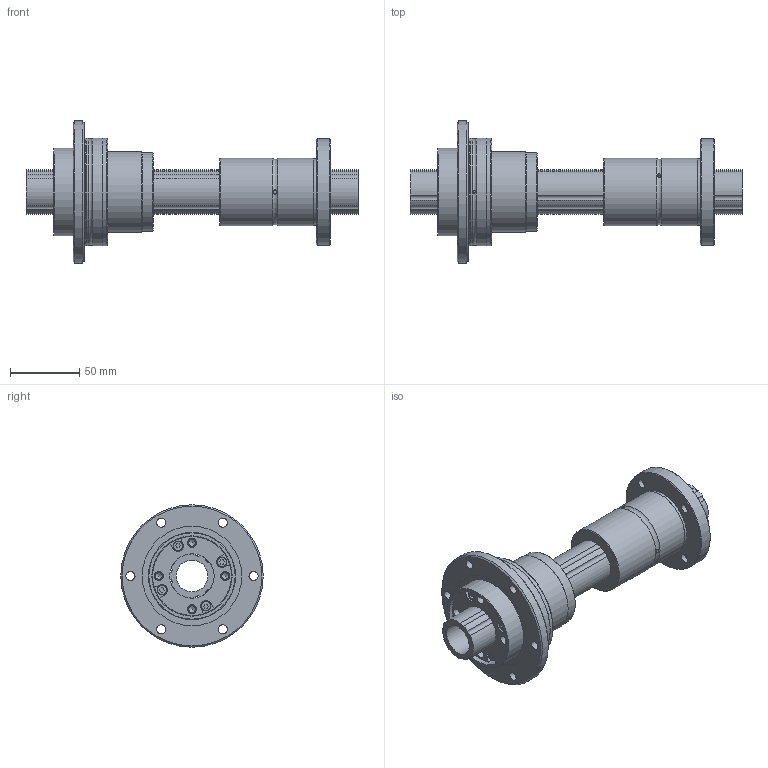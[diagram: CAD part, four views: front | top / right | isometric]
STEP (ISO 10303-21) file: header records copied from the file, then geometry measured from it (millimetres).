
FILE_DESCRIPTION(/* description */ ('STEP AP203'),/* implementation_level */ '2;1');
FILE_NAME(/* name */ 'NS3232A+240L',/* time_stamp */ '2025-06-11T08:45:45+02:00',/* author */ ('License CC BY-ND 4.0'),/* organization */ ('CADENAS'),/* preprocessor_version */ 'ST-DEVELOPER v19.3',/* originating_system */ 'PARTsolutions',/* authorisation */ ' ');
FILE_SCHEMA (('CONFIG_CONTROL_DESIGN'));
Length unit declared in the file: millimetre
Products named in the file (4): NS3232A+240L; NS 3232A+240L Shaft; NS 3232ASpline_b; NS 3232ASpline
Assembly tree (3 placements, depth 2):
  NS3232A+240L
    NS 3232A+240L Shaft
    NS 3232ASpline_b
    NS 3232ASpline
Bounding box: 240 x 103 x 103 mm (x, y, z)
Volume: 405891.6 mm3; surface area: 116532.5 mm2
Topology: 3 solids, 3 shells, 163 faces, 361 edges, 235 vertices
Faces by surface type: plane 73, cylinder 66, cone 16, torus 8
Full cylindrical faces by diameter (mm): 1.8 x1, 3 x3, 4.917 x4, 6.6 x14, 7 x4, 11 x4, 23 x1, 32 x2, 48 x1, 49 x2, 57 x2, 58 x2, 63 x2, 72 x2, 77 x1, 77.5 x1, 77.6 x1, 78 x2, 103 x1
Entity records: 4226 total; most frequent: DIRECTION 752, CARTESIAN_POINT 710, ORIENTED_EDGE 542, AXIS2_PLACEMENT_3D 318, FACE_BOUND 298, EDGE_LOOP 294, EDGE_CURVE 271, VERTEX_POINT 223
